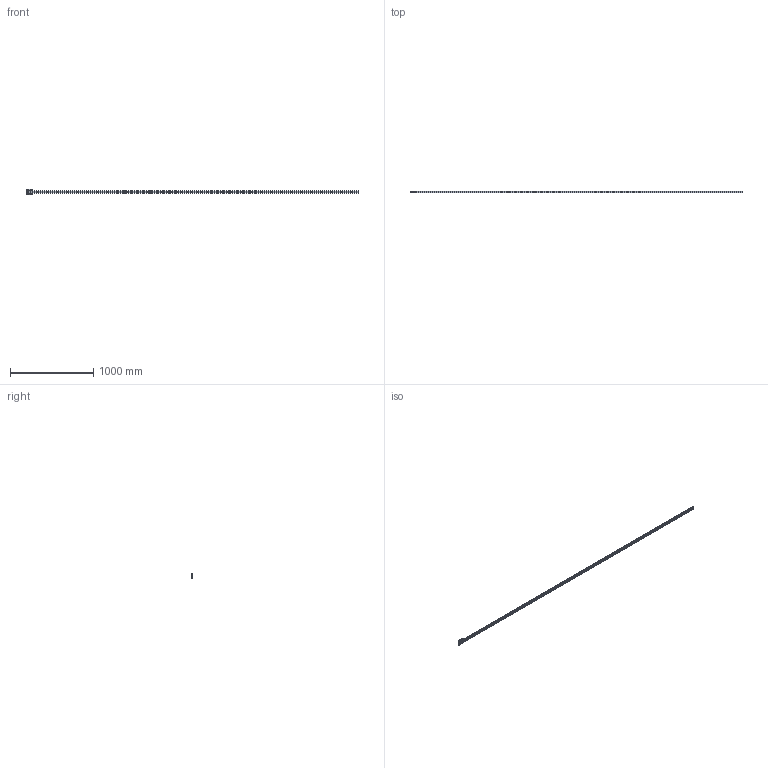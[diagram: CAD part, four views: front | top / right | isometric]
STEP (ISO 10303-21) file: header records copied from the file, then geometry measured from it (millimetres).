
FILE_DESCRIPTION( ( 'STEP AP203' ), '1' );
FILE_NAME( 'p:/temp/worker_8/temp/exporttempdir_5100_172_Zm2VK/format_0/FDI15 84395NV_4000-0-0.stp', '2021-02-04T02:07:25', ( 'License CC BY-ND 4.0' ), ( 'CADENAS' ), ' ', 'PARTsolutions', ' ' );
FILE_SCHEMA( ( 'CONFIG_CONTROL_DESIGN' ) );
Length unit declared in the file: millimetre
Products named in the file (5): FDI15 84395NV_4000-0-0; _FDI_15R 4000-0-0; _FDI_15R Slider_1; _FDI_15R 4000-0-0_2; _FDI_15R Slider_2
Assembly tree (4 placements, depth 2):
  FDI15 84395NV_4000-0-0
    _FDI_15R 4000-0-0
    _FDI_15R Slider_1
    _FDI_15R 4000-0-0_2
    _FDI_15R Slider_2
Bounding box: 4000 x 24 x 61.8 mm (x, y, z)
Volume: 1991584.3 mm3; surface area: 645418.4 mm2
Topology: 4 solids, 4 shells, 629 faces, 1584 edges, 1095 vertices
Faces by surface type: cylinder 309, plane 294, cone 26
Full cylindrical faces by diameter (mm): 3.242 x8, 4.134 x4, 4.5 x134, 8 x134, 10 x1
Entity records: 17083 total; most frequent: DIRECTION 3019, CARTESIAN_POINT 2767, ORIENTED_EDGE 2248, EDGE_LOOP 1338, AXIS2_PLACEMENT_3D 1278, EDGE_CURVE 1124, VERTEX_POINT 948, FACE_OUTER_BOUND 908
